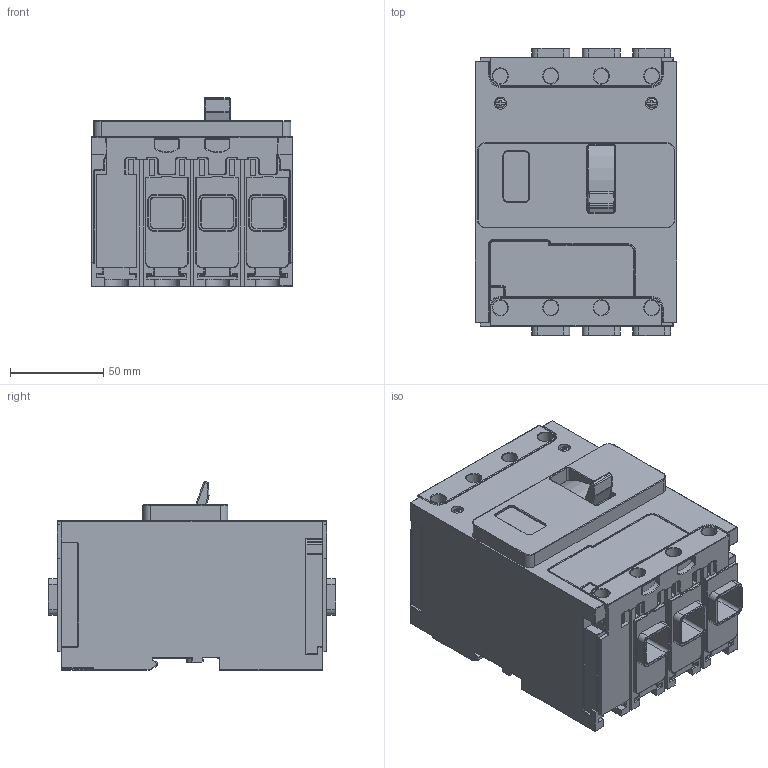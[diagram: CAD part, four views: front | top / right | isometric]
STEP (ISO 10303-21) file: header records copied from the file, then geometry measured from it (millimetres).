
FILE_DESCRIPTION((''),'2;1');
FILE_NAME('C12H34V160L_3D-SIMPLIFIED_ASM','2020-12-15T18:15:55',('user.1'),('Schneider-Electric'),'CREO PARAMETRIC BY PTC INC, 2018300','CREO PARAMETRIC BY PTC INC, 2018300','');
FILE_SCHEMA(('CONFIG_CONTROL_DESIGN'));
Length unit declared in the file: millimetre
Products named in the file (2): C12H34V160L_3D-SIMPLIFIED; C12H34V160L_3D-SIMPLIFIED_ASM
Assembly tree (1 placements, depth 2):
  C12H34V160L_3D-SIMPLIFIED_ASM
    C12H34V160L_3D-SIMPLIFIED
Bounding box: 108 x 154 x 100.96 mm (x, y, z)
Volume: 1176075.7 mm3; surface area: 118402.7 mm2
Topology: 1 solids, 1 shells, 1653 faces, 4113 edges, 2512 vertices
Faces by surface type: cylinder 675, plane 665, torus 171, sphere 60, bspline 46, extrusion 32, cone 4
Entity records: 51730 total; most frequent: CARTESIAN_POINT 11998, DIRECTION 8504, ORIENTED_EDGE 8226, EDGE_CURVE 4113, AXIS2_PLACEMENT_3D 3001, VERTEX_POINT 2512, VECTOR 2502, LINE 2470
